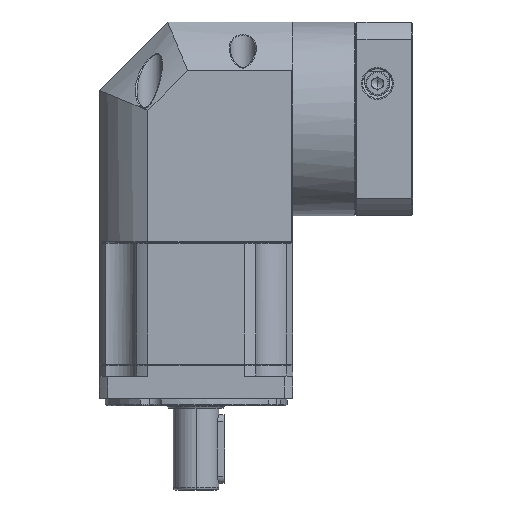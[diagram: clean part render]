
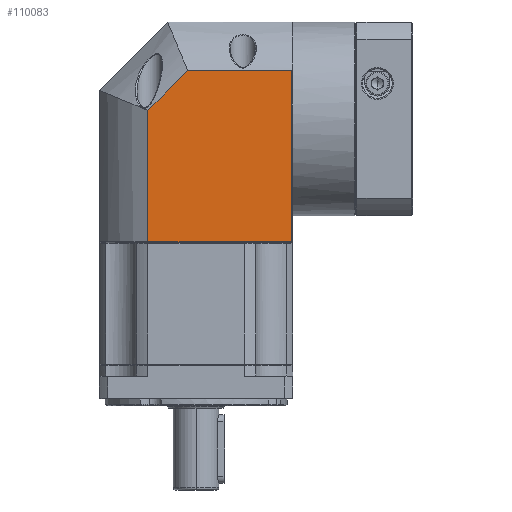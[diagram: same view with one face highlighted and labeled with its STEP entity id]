
A CAD part, front view. The second image highlights one B-rep face of the part: STEP entity #110083.
In plain terms, the highlighted planar face has unit normal (0, -1, 0).
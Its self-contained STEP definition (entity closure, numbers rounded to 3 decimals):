
#1997 = EDGE_CURVE ( 'NONE', #18039, #47499, #31117, .T. ) ;
#4750 = CARTESIAN_POINT ( 'NONE',  ( 47.032, 113.508, 37.348 ) ) ;
#5963 = ORIENTED_EDGE ( 'NONE', *, *, #140687, .T. ) ;
#6401 = LINE ( 'NONE', #108099, #78558 ) ;
#10196 = AXIS2_PLACEMENT_3D ( 'NONE', #73539, #167985, #87134 ) ;
#13460 = EDGE_CURVE ( 'NONE', #99258, #113518, #56691, .T. ) ;
#13992 = ORIENTED_EDGE ( 'NONE', *, *, #13460, .F. ) ;
#18039 = VERTEX_POINT ( 'NONE', #4750 ) ;
#22400 = CARTESIAN_POINT ( 'NONE',  ( -16.181, 113.508, 58.635 ) ) ;
#25331 = DIRECTION ( 'NONE',  ( 0., 0., -1. ) ) ;
#26699 = LINE ( 'NONE', #129960, #134554 ) ;
#30649 = EDGE_CURVE ( 'NONE', #113518, #49493, #6401, .T. ) ;
#31117 = LINE ( 'NONE', #119856, #170598 ) ;
#32223 = EDGE_CURVE ( 'NONE', #49493, #18039, #149413, .T. ) ;
#36002 = DIRECTION ( 'NONE',  ( 0., 0., 1. ) ) ;
#37243 = CARTESIAN_POINT ( 'NONE',  ( 1.349, 113.508, 37.348 ) ) ;
#39396 = EDGE_LOOP ( 'NONE', ( #5963, #108688, #119777, #76462, #13992 ) ) ;
#40724 = DIRECTION ( 'NONE',  ( 0.707, 0., 0.707 ) ) ;
#41568 = VECTOR ( 'NONE', #135791, 1000. ) ;
#47499 = VERTEX_POINT ( 'NONE', #78031 ) ;
#49493 = VERTEX_POINT ( 'NONE', #37243 ) ;
#56691 = LINE ( 'NONE', #22400, #124236 ) ;
#73539 = CARTESIAN_POINT ( 'NONE',  ( 47.532, 113.508, 58.635 ) ) ;
#76462 = ORIENTED_EDGE ( 'NONE', *, *, #30649, .F. ) ;
#78031 = CARTESIAN_POINT ( 'NONE',  ( 47.032, 113.508, -37.865 ) ) ;
#78558 = VECTOR ( 'NONE', #40724, 1000. ) ;
#87134 = DIRECTION ( 'NONE',  ( -1., 0., 0. ) ) ;
#90316 = FACE_OUTER_BOUND ( 'NONE', #39396, .T. ) ;
#99258 = VERTEX_POINT ( 'NONE', #150220 ) ;
#100171 = PLANE ( 'NONE',  #10196 ) ;
#108099 = CARTESIAN_POINT ( 'NONE',  ( -16.181, 113.508, 19.818 ) ) ;
#108688 = ORIENTED_EDGE ( 'NONE', *, *, #1997, .F. ) ;
#110083 = ADVANCED_FACE ( 'NONE', ( #90316 ), #100171, .F. ) ;
#113518 = VERTEX_POINT ( 'NONE', #128392 ) ;
#116916 = DIRECTION ( 'NONE',  ( 1., 0., 0. ) ) ;
#119777 = ORIENTED_EDGE ( 'NONE', *, *, #32223, .F. ) ;
#119856 = CARTESIAN_POINT ( 'NONE',  ( 47.032, 113.508, 58.635 ) ) ;
#122150 = CARTESIAN_POINT ( 'NONE',  ( 47.532, 113.508, 37.348 ) ) ;
#124236 = VECTOR ( 'NONE', #36002, 1000. ) ;
#128392 = CARTESIAN_POINT ( 'NONE',  ( -16.181, 113.508, 19.818 ) ) ;
#129960 = CARTESIAN_POINT ( 'NONE',  ( 47.532, 113.508, -37.865 ) ) ;
#134554 = VECTOR ( 'NONE', #116916, 1000. ) ;
#135791 = DIRECTION ( 'NONE',  ( 1., 0., 0. ) ) ;
#140687 = EDGE_CURVE ( 'NONE', #99258, #47499, #26699, .T. ) ;
#149413 = LINE ( 'NONE', #122150, #41568 ) ;
#150220 = CARTESIAN_POINT ( 'NONE',  ( -16.181, 113.508, -37.865 ) ) ;
#167985 = DIRECTION ( 'NONE',  ( 0., 1., 0. ) ) ;
#170598 = VECTOR ( 'NONE', #25331, 1000. ) ;
